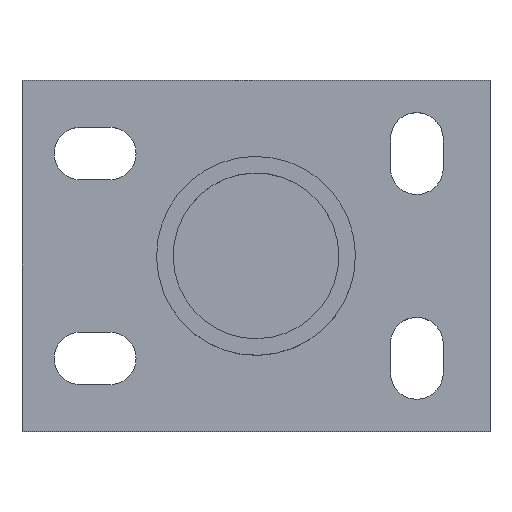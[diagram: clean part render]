
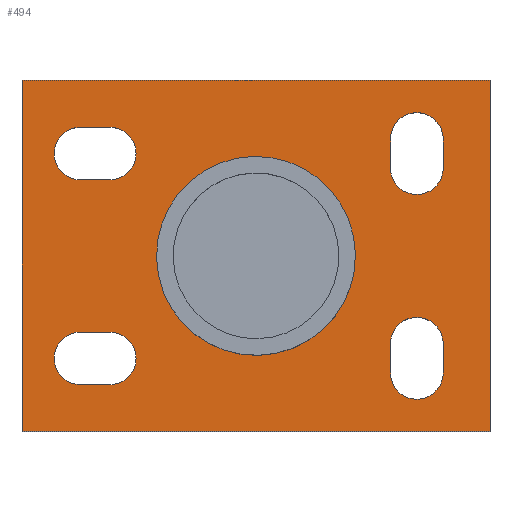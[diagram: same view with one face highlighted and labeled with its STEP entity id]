
A CAD part, top view. The second image highlights one B-rep face of the part: STEP entity #494.
In plain terms, the highlighted planar face has unit normal (0, 0, 1).
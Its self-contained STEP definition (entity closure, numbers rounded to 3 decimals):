
#24=FACE_BOUND('',#154,.T.);
#25=FACE_BOUND('',#155,.T.);
#26=FACE_BOUND('',#156,.T.);
#27=FACE_BOUND('',#157,.T.);
#28=FACE_BOUND('',#158,.T.);
#34=LINE('',#735,#80);
#35=LINE('',#737,#81);
#36=LINE('',#739,#82);
#37=LINE('',#740,#83);
#38=LINE('',#745,#84);
#39=LINE('',#748,#85);
#40=LINE('',#753,#86);
#41=LINE('',#756,#87);
#42=LINE('',#759,#88);
#43=LINE('',#763,#89);
#44=LINE('',#767,#90);
#45=LINE('',#771,#91);
#80=VECTOR('',#596,1.);
#81=VECTOR('',#597,1.);
#82=VECTOR('',#598,1.);
#83=VECTOR('',#599,1.);
#84=VECTOR('',#602,1.);
#85=VECTOR('',#605,1.);
#86=VECTOR('',#608,1.);
#87=VECTOR('',#611,1.);
#88=VECTOR('',#612,1.);
#89=VECTOR('',#615,1.);
#90=VECTOR('',#618,1.);
#91=VECTOR('',#621,1.);
#127=FACE_OUTER_BOUND('',#153,.T.);
#153=EDGE_LOOP('',(#319,#320,#321,#322));
#154=EDGE_LOOP('',(#323,#324,#325,#326));
#155=EDGE_LOOP('',(#327,#328,#329,#330));
#156=EDGE_LOOP('',(#331,#332,#333,#334));
#157=EDGE_LOOP('',(#335,#336,#337,#338));
#158=EDGE_LOOP('',(#339));
#189=CIRCLE('',#545,9.);
#190=CIRCLE('',#546,9.);
#191=CIRCLE('',#547,9.);
#192=CIRCLE('',#548,9.);
#193=CIRCLE('',#549,9.);
#194=CIRCLE('',#550,9.);
#195=CIRCLE('',#551,9.);
#196=CIRCLE('',#552,9.);
#197=CIRCLE('',#553,34.);
#209=VERTEX_POINT('',#733);
#210=VERTEX_POINT('',#734);
#211=VERTEX_POINT('',#736);
#212=VERTEX_POINT('',#738);
#213=VERTEX_POINT('',#741);
#214=VERTEX_POINT('',#742);
#215=VERTEX_POINT('',#744);
#216=VERTEX_POINT('',#746);
#217=VERTEX_POINT('',#749);
#218=VERTEX_POINT('',#750);
#219=VERTEX_POINT('',#752);
#220=VERTEX_POINT('',#754);
#221=VERTEX_POINT('',#757);
#222=VERTEX_POINT('',#758);
#223=VERTEX_POINT('',#760);
#224=VERTEX_POINT('',#762);
#225=VERTEX_POINT('',#765);
#226=VERTEX_POINT('',#766);
#227=VERTEX_POINT('',#768);
#228=VERTEX_POINT('',#770);
#229=VERTEX_POINT('',#773);
#253=EDGE_CURVE('',#209,#210,#34,.T.);
#254=EDGE_CURVE('',#210,#211,#35,.F.);
#255=EDGE_CURVE('',#211,#212,#36,.T.);
#256=EDGE_CURVE('',#212,#209,#37,.F.);
#257=EDGE_CURVE('',#213,#214,#189,.T.);
#258=EDGE_CURVE('',#215,#213,#38,.F.);
#259=EDGE_CURVE('',#216,#215,#190,.T.);
#260=EDGE_CURVE('',#214,#216,#39,.F.);
#261=EDGE_CURVE('',#217,#218,#191,.T.);
#262=EDGE_CURVE('',#219,#217,#40,.F.);
#263=EDGE_CURVE('',#220,#219,#192,.T.);
#264=EDGE_CURVE('',#218,#220,#41,.F.);
#265=EDGE_CURVE('',#221,#222,#42,.T.);
#266=EDGE_CURVE('',#223,#221,#193,.T.);
#267=EDGE_CURVE('',#224,#223,#43,.T.);
#268=EDGE_CURVE('',#222,#224,#194,.T.);
#269=EDGE_CURVE('',#225,#226,#44,.T.);
#270=EDGE_CURVE('',#227,#225,#195,.T.);
#271=EDGE_CURVE('',#228,#227,#45,.T.);
#272=EDGE_CURVE('',#226,#228,#196,.T.);
#273=EDGE_CURVE('',#229,#229,#197,.F.);
#319=ORIENTED_EDGE('',*,*,#253,.T.);
#320=ORIENTED_EDGE('',*,*,#254,.T.);
#321=ORIENTED_EDGE('',*,*,#255,.T.);
#322=ORIENTED_EDGE('',*,*,#256,.T.);
#323=ORIENTED_EDGE('',*,*,#257,.F.);
#324=ORIENTED_EDGE('',*,*,#258,.F.);
#325=ORIENTED_EDGE('',*,*,#259,.F.);
#326=ORIENTED_EDGE('',*,*,#260,.F.);
#327=ORIENTED_EDGE('',*,*,#261,.F.);
#328=ORIENTED_EDGE('',*,*,#262,.F.);
#329=ORIENTED_EDGE('',*,*,#263,.F.);
#330=ORIENTED_EDGE('',*,*,#264,.F.);
#331=ORIENTED_EDGE('',*,*,#265,.F.);
#332=ORIENTED_EDGE('',*,*,#266,.F.);
#333=ORIENTED_EDGE('',*,*,#267,.F.);
#334=ORIENTED_EDGE('',*,*,#268,.F.);
#335=ORIENTED_EDGE('',*,*,#269,.F.);
#336=ORIENTED_EDGE('',*,*,#270,.F.);
#337=ORIENTED_EDGE('',*,*,#271,.F.);
#338=ORIENTED_EDGE('',*,*,#272,.F.);
#339=ORIENTED_EDGE('',*,*,#273,.T.);
#451=PLANE('',#544);
#494=ADVANCED_FACE('',(#127,#24,#25,#26,#27,#28),#451,.T.);
#544=AXIS2_PLACEMENT_3D('',#732,#594,#595);
#545=AXIS2_PLACEMENT_3D('',#743,#600,#601);
#546=AXIS2_PLACEMENT_3D('',#747,#603,#604);
#547=AXIS2_PLACEMENT_3D('',#751,#606,#607);
#548=AXIS2_PLACEMENT_3D('',#755,#609,#610);
#549=AXIS2_PLACEMENT_3D('',#761,#613,#614);
#550=AXIS2_PLACEMENT_3D('',#764,#616,#617);
#551=AXIS2_PLACEMENT_3D('',#769,#619,#620);
#552=AXIS2_PLACEMENT_3D('',#772,#622,#623);
#553=AXIS2_PLACEMENT_3D('',#774,#624,#625);
#594=DIRECTION('center_axis',(0.,0.,
1.));
#595=DIRECTION('ref_axis',(-1.,0.,0.));
#596=DIRECTION('',(0.,1.,0.));
#597=DIRECTION('',(1.,0.,0.));
#598=DIRECTION('',(0.,-1.,0.));
#599=DIRECTION('',(-1.,0.,0.));
#600=DIRECTION('center_axis',(0.,0.,
1.));
#601=DIRECTION('ref_axis',(1.,0.,0.));
#602=DIRECTION('',(0.,-1.,0.));
#603=DIRECTION('center_axis',(0.,0.,
1.));
#604=DIRECTION('ref_axis',(1.,0.,0.));
#605=DIRECTION('',(0.,1.,0.));
#606=DIRECTION('center_axis',(0.,0.,
1.));
#607=DIRECTION('ref_axis',(1.,0.,0.));
#608=DIRECTION('',(1.,0.,0.));
#609=DIRECTION('center_axis',(0.,0.,
1.));
#610=DIRECTION('ref_axis',(1.,0.,0.));
#611=DIRECTION('',(-1.,0.,0.));
#612=DIRECTION('',(0.,1.,0.));
#613=DIRECTION('center_axis',(0.,0.,
1.));
#614=DIRECTION('ref_axis',(1.,0.,0.));
#615=DIRECTION('',(0.,-1.,0.));
#616=DIRECTION('center_axis',(0.,0.,
1.));
#617=DIRECTION('ref_axis',(1.,0.,0.));
#618=DIRECTION('',(1.,0.,0.));
#619=DIRECTION('center_axis',(0.,0.,
1.));
#620=DIRECTION('ref_axis',(1.,0.,0.));
#621=DIRECTION('',(-1.,0.,0.));
#622=DIRECTION('center_axis',(0.,0.,
1.));
#623=DIRECTION('ref_axis',(1.,0.,0.));
#624=DIRECTION('center_axis',(0.,0.,
1.));
#625=DIRECTION('ref_axis',(1.,0.,0.));
#732=CARTESIAN_POINT('Origin',(0.,0.,
10.));
#733=CARTESIAN_POINT('',(80.,-60.,10.));
#734=CARTESIAN_POINT('',(80.,60.,10.));
#735=CARTESIAN_POINT('',(80.,0.,10.));
#736=CARTESIAN_POINT('',(-80.,60.,10.));
#737=CARTESIAN_POINT('',(0.,60.,10.));
#738=CARTESIAN_POINT('',(-80.,-60.,10.));
#739=CARTESIAN_POINT('',(-80.,0.,10.));
#740=CARTESIAN_POINT('',(0.,-60.,10.));
#741=CARTESIAN_POINT('',(64.,-30.,10.));
#742=CARTESIAN_POINT('',(46.,-30.,10.));
#743=CARTESIAN_POINT('Origin',(55.,-30.,10.));
#744=CARTESIAN_POINT('',(64.,-40.,10.));
#745=CARTESIAN_POINT('',(64.,-35.,10.));
#746=CARTESIAN_POINT('',(46.,-40.,10.));
#747=CARTESIAN_POINT('Origin',(55.,-40.,10.));
#748=CARTESIAN_POINT('',(46.,-35.,10.));
#749=CARTESIAN_POINT('',(-60.,-26.,10.));
#750=CARTESIAN_POINT('',(-60.,-44.,10.));
#751=CARTESIAN_POINT('Origin',(-60.,-35.,10.));
#752=CARTESIAN_POINT('',(-50.,-26.,10.));
#753=CARTESIAN_POINT('',(-55.,-26.,10.));
#754=CARTESIAN_POINT('',(-50.,-44.,10.));
#755=CARTESIAN_POINT('Origin',(-50.,-35.,10.));
#756=CARTESIAN_POINT('',(-55.,-44.,10.));
#757=CARTESIAN_POINT('',(64.,30.,10.));
#758=CARTESIAN_POINT('',(64.,40.,10.));
#759=CARTESIAN_POINT('',(64.,35.,10.));
#760=CARTESIAN_POINT('',(46.,30.,10.));
#761=CARTESIAN_POINT('Origin',(55.,30.,10.));
#762=CARTESIAN_POINT('',(46.,40.,10.));
#763=CARTESIAN_POINT('',(46.,35.,10.));
#764=CARTESIAN_POINT('Origin',(55.,40.,10.));
#765=CARTESIAN_POINT('',(-60.,26.,10.));
#766=CARTESIAN_POINT('',(-50.,26.,10.));
#767=CARTESIAN_POINT('',(-55.,26.,10.));
#768=CARTESIAN_POINT('',(-60.,44.,10.));
#769=CARTESIAN_POINT('Origin',(-60.,35.,10.));
#770=CARTESIAN_POINT('',(-50.,44.,10.));
#771=CARTESIAN_POINT('',(-55.,44.,10.));
#772=CARTESIAN_POINT('Origin',(-50.,35.,10.));
#773=CARTESIAN_POINT('',(29.838,-16.3,10.));
#774=CARTESIAN_POINT('Origin',(0.,0.,
10.));
